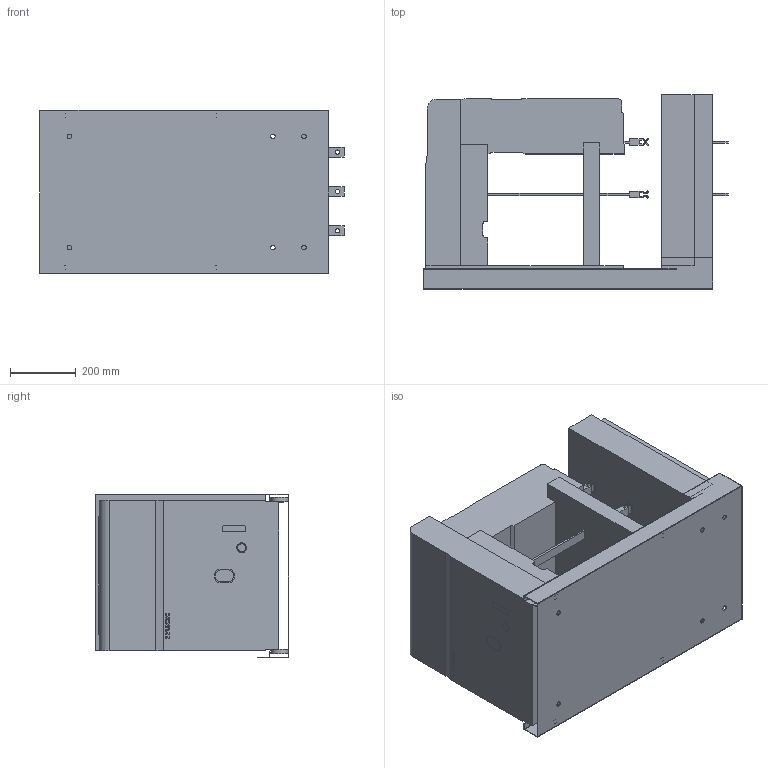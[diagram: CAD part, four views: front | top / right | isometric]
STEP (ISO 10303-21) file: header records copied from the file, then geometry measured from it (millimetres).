
FILE_DESCRIPTION(('STEP AP214'), '1');
FILE_NAME('Âûäâèæíîå èñïîëíåíèå 7,2êÂ, êîðçèíà êëàññà E_F (D4)', '', ('UNSPECIFIED'), ('UNSPECIFIED'), 'ASCON STEP Converter 1.3', 'ASCON Math Kernel', '');
FILE_SCHEMA(('AUTOMOTIVE_DESIGN { 1 0 10303 214 3 1 1}'));
Length unit declared in the file: millimetre
Bounding box: 928.5 x 591.84 x 500.01 mm (x, y, z)
Volume: 122739807.6 mm3; surface area: 4216366.4 mm2
Topology: 2 solids, 2 shells, 378 faces, 1034 edges, 684 vertices
Faces by surface type: plane 288, cylinder 64, extrusion 26
Full cylindrical faces by diameter (mm): 13 x6, 14 x6, 24 x1, 30 x1, 54 x4
Entity records: 14927 total; most frequent: CARTESIAN_POINT 2235, ORIENTED_EDGE 2032, DIRECTION 1833, EDGE_CURVE 1016, VECTOR 853, LINE 827, VERTEX_POINT 684, AXIS2_PLACEMENT_3D 490
